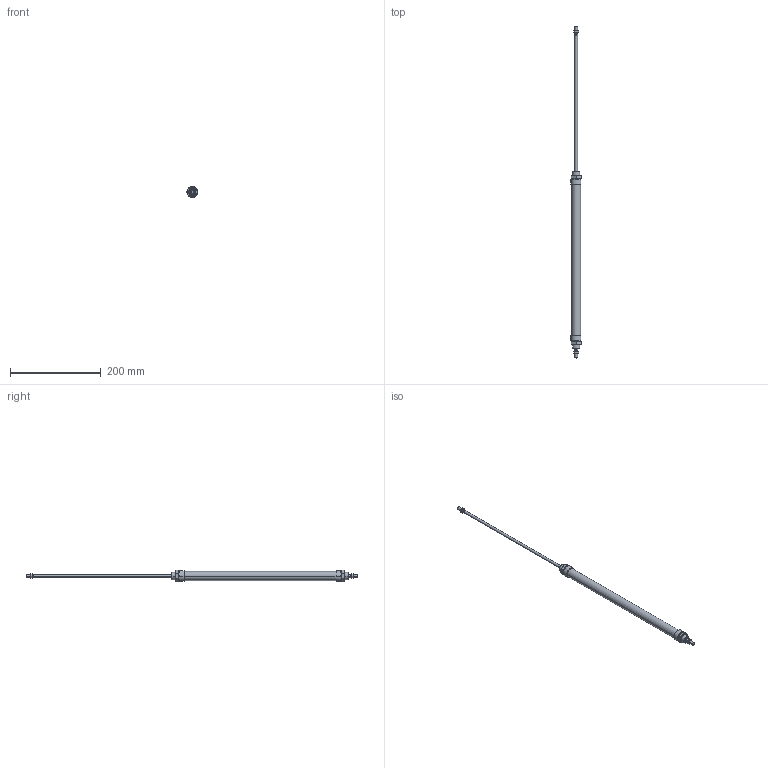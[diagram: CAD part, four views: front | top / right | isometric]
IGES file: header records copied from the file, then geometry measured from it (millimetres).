
Global section: file name: No Iges File Name specified; native system: AutoDesk Inventor R6.0; preprocessor: AutoDesk Inventor Iges Exporter R6.0; author: No Author specified; organization: No Organization specified; date: 20030403.072235; units: millimetre
Bounding box: 23 x 732 x 25.4 mm (x, y, z)
Volume: 134181.5 mm3; surface area: 49645.6 mm2
Topology: 6 solids, 6 shells, 180 faces, 388 edges, 228 vertices
Faces by surface type: cone 68, plane 56, bspline 30, cylinder 20, revolution 6
